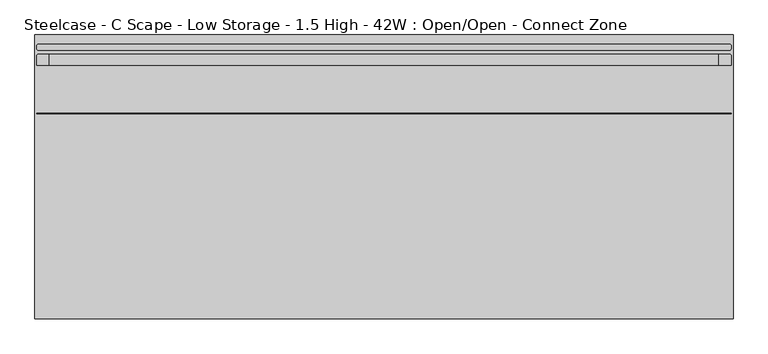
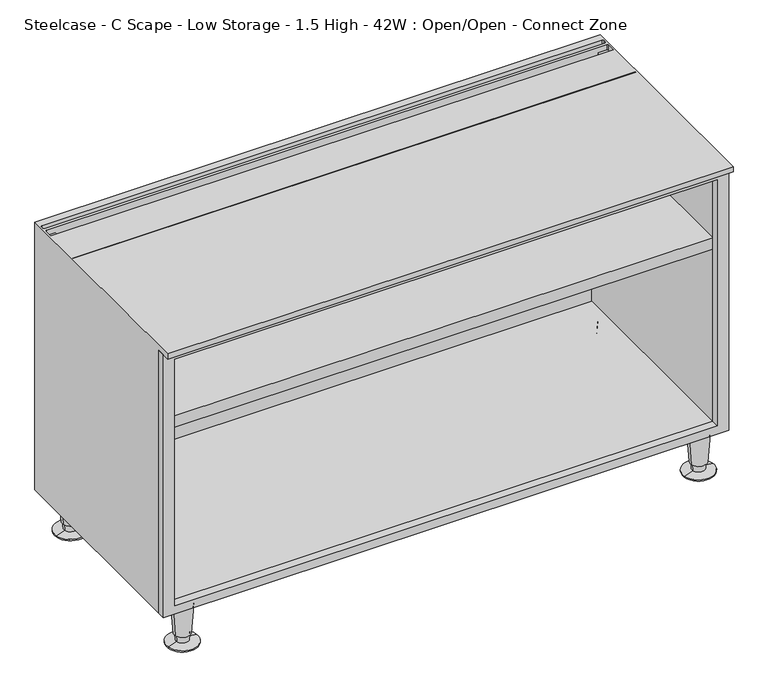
"""IFC4 building model written with IfcOpenShell, lengths in millimetres: furniture geometry, Steelcase - C Scape - Low Storage - 1.5 High - 42W : Open/Open - Connect Zone."""

from ifc_helpers import new_model, si_unit, frame, origin, place, context, project, spatial, polyline, circle_curve, outline, extrude, source, transform, mapped, element, save
from ifc_brep_helpers import plane_surface, cylinder_surface, revolved_surface, advanced_brep


def steelcase_c_scape_low_storage_1_5_high_42w_open_open_connect_68b74ef6(model_context):
    return source(origin(), model_context, "Body", "SolidModel", [
        extrude(outline(polyline([(599.44, 532.2710512), (599.44, 0.0), (76.1999955, 0.0), (76.1999955, 1065.53), (599.44, 1065.53), (599.44, 532.2710512)]), holes=[polyline([(92.7100024, 1043.5617285), (92.7100024, 21.3382324), (582.93, 21.3382324), (582.93, 1043.5617285), (92.7100024, 1043.5617285)])]), frame((0.0, -419.3484735, 0.0), z_axis=(0.0, 1.0, 0.0), x_axis=(0.0, 0.0, 1.0)), (0.0, 0.0, 1.0), 14.9862946),
        advanced_brep(
        [(1038.2598695, -31.5218435, 76.2), (1000.5981305, -37.2840847, 76.2), (1019.429, -34.4029641, 76.2), (1034.3095214, -32.1262463, 19.05), (1004.5484786, -36.6796819, 19.05), (1031.8799345, -32.4979728, 19.05), (1006.9780655, -36.3079555, 19.05), (1031.191165, -32.6033544, 5.7545598), (1007.666835, -36.2025738, 5.7545598), (1048.5400485, -29.9489775, 2.5119506), (990.3179515, -38.8569507, 2.5119506), (1048.5400485, -29.9489775, 0.0), (990.3179515, -38.8569507, 0.0), (1019.429, -34.4029641, 0.0)],
        [
            (0, 1, circle_curve(frame((1019.429, -34.4029641, 76.2), z_axis=(0.0, 0.0, 1.0), x_axis=(0.0, -1.0, 0.0)), 19.05)),
            (1, 2),
            (2, 0),
            (1, 0, circle_curve(frame((1019.429, -34.4029641, 76.2), z_axis=(0.0, 0.0, 1.0), x_axis=(0.0, -1.0, 0.0)), 19.05)),
            (3, 4, circle_curve(frame((1019.429, -34.4029641, 19.05), z_axis=(0.0, 0.0, 1.0), x_axis=(0.0, -1.0, 0.0)), 15.0536827)),
            (4, 1),
            (0, 3),
            (4, 3, circle_curve(frame((1019.429, -34.4029641, 19.05), z_axis=(0.0, 0.0, 1.0), x_axis=(0.0, -1.0, 0.0)), 15.0536827)),
            (5, 6, circle_curve(frame((1019.429, -34.4029641, 19.05), z_axis=(0.0, 0.0, 1.0), x_axis=(0.0, -1.0, 0.0)), 12.5958232)),
            (6, 4),
            (3, 5),
            (6, 5, circle_curve(frame((1019.429, -34.4029641, 19.05), z_axis=(0.0, 0.0, 1.0), x_axis=(0.0, -1.0, 0.0)), 12.5958232)),
            (7, 8, circle_curve(frame((1019.429, -34.4029641, 5.7545598), z_axis=(0.0, 0.0, 1.0), x_axis=(0.0, -1.0, 0.0)), 11.8990387)),
            (8, 6),
            (5, 7),
            (8, 7, circle_curve(frame((1019.429, -34.4029641, 5.7545598), z_axis=(0.0, 0.0, 1.0), x_axis=(0.0, -1.0, 0.0)), 11.8990387)),
            (9, 10, circle_curve(frame((1019.429, -34.4029641, 2.5119506), z_axis=(0.0, 0.0, 1.0), x_axis=(0.0, -1.0, 0.0)), 29.4498071)),
            (10, 8),
            (7, 9),
            (10, 9, circle_curve(frame((1019.429, -34.4029641, 2.5119506), z_axis=(0.0, 0.0, 1.0), x_axis=(0.0, -1.0, 0.0)), 29.4498071)),
            (11, 12, circle_curve(frame((1019.429, -34.4029641, 0.0), z_axis=(0.0, 0.0, 1.0), x_axis=(0.0, -1.0, 0.0)), 29.4498071)),
            (12, 10),
            (9, 11),
            (12, 11, circle_curve(frame((1019.429, -34.4029641, 0.0), z_axis=(0.0, 0.0, 1.0), x_axis=(0.0, -1.0, 0.0)), 29.4498071)),
            (13, 12),
            (11, 13),
        ],
        [
            plane_surface(frame((1019.429, -34.4029641, 76.2), z_axis=(0.0, 0.0, 1.0), x_axis=(0.0, -1.0, 0.0))),
            revolved_surface(polyline([(1019.429, -53.4529641, 76.2), (1019.429, -49.4566468, 19.05)]), (1019.429, -34.4029641, 25.4), (0.0, 0.0, -1.0)),
            plane_surface(frame((1019.429, -34.4029641, 19.05), z_axis=(0.0, 0.0, -1.0), x_axis=(0.0, -1.0, 0.0))),
            revolved_surface(polyline([(1019.429, -46.9987873, 19.05), (1019.429, -46.3020028, 5.7545598)]), (1019.429, -34.4029641, 25.4), (0.0, 0.0, -1.0)),
            revolved_surface(polyline([(1019.429, -46.3020028, 5.7545598), (1019.429, -63.8527712, 2.5119506)]), (1019.429, -34.4029641, 25.4), (0.0, 0.0, -1.0)),
            cylinder_surface(frame((1019.429, -34.4029641, 25.4), z_axis=(0.0, 0.0, -1.0), x_axis=(0.0, -1.0, 0.0)), 29.4498071),
            plane_surface(frame((1019.429, -34.4029641, 0.0), z_axis=(0.0, 0.0, -1.0), x_axis=(0.0, -1.0, 0.0))),
        ],
        [
            (0, [[1, 2, 3]]),
            (0, [[4, -3, -2]]),
            (1, [[5, 6, -1, 7]]),
            (1, [[8, -7, -4, -6]]),
            (2, [[9, 10, -5, 11]]),
            (2, [[12, -11, -8, -10]]),
            (3, [[13, 14, -9, 15]]),
            (3, [[16, -15, -12, -14]]),
            (4, [[17, 18, -13, 19]]),
            (4, [[20, -19, -16, -18]]),
            (5, [[21, 22, -17, 23]]),
            (5, [[24, -23, -20, -22]]),
            (6, [[25, -21, 26]]),
            (6, [[-26, -24, -25]]),
        ],
    ),
        advanced_brep(
        [(1038.2598695, -397.1702762, 76.2), (1000.5981305, -402.9325174, 76.2), (1019.429, -400.0513968, 76.2), (1034.3095214, -397.774679, 19.05), (1004.5484786, -402.3281146, 19.05), (1031.8799345, -398.1464055, 19.05), (1006.9780655, -401.9563882, 19.05), (1031.191165, -398.2517871, 5.7545598), (1007.666835, -401.8510065, 5.7545598), (1048.5400485, -395.5974102, 2.5119506), (990.3179515, -404.5053834, 2.5119506), (1048.5400485, -395.5974102, 0.0), (990.3179515, -404.5053834, 0.0), (1019.429, -400.0513968, 0.0)],
        [
            (0, 1, circle_curve(frame((1019.429, -400.0513968, 76.2), z_axis=(0.0, 0.0, 1.0), x_axis=(0.0, -1.0, 0.0)), 19.05)),
            (1, 2),
            (2, 0),
            (1, 0, circle_curve(frame((1019.429, -400.0513968, 76.2), z_axis=(0.0, 0.0, 1.0), x_axis=(0.0, -1.0, 0.0)), 19.05)),
            (3, 4, circle_curve(frame((1019.429, -400.0513968, 19.05), z_axis=(0.0, 0.0, 1.0), x_axis=(0.0, -1.0, 0.0)), 15.0536827)),
            (4, 1),
            (0, 3),
            (4, 3, circle_curve(frame((1019.429, -400.0513968, 19.05), z_axis=(0.0, 0.0, 1.0), x_axis=(0.0, -1.0, 0.0)), 15.0536827)),
            (5, 6, circle_curve(frame((1019.429, -400.0513968, 19.05), z_axis=(0.0, 0.0, 1.0), x_axis=(0.0, -1.0, 0.0)), 12.5958232)),
            (6, 4),
            (3, 5),
            (6, 5, circle_curve(frame((1019.429, -400.0513968, 19.05), z_axis=(0.0, 0.0, 1.0), x_axis=(0.0, -1.0, 0.0)), 12.5958232)),
            (7, 8, circle_curve(frame((1019.429, -400.0513968, 5.7545598), z_axis=(0.0, 0.0, 1.0), x_axis=(0.0, -1.0, 0.0)), 11.8990387)),
            (8, 6),
            (5, 7),
            (8, 7, circle_curve(frame((1019.429, -400.0513968, 5.7545598), z_axis=(0.0, 0.0, 1.0), x_axis=(0.0, -1.0, 0.0)), 11.8990387)),
            (9, 10, circle_curve(frame((1019.429, -400.0513968, 2.5119506), z_axis=(0.0, 0.0, 1.0), x_axis=(0.0, -1.0, 0.0)), 29.4498071)),
            (10, 8),
            (7, 9),
            (10, 9, circle_curve(frame((1019.429, -400.0513968, 2.5119506), z_axis=(0.0, 0.0, 1.0), x_axis=(0.0, -1.0, 0.0)), 29.4498071)),
            (11, 12, circle_curve(frame((1019.429, -400.0513968, 0.0), z_axis=(0.0, 0.0, 1.0), x_axis=(0.0, -1.0, 0.0)), 29.4498071)),
            (12, 10),
            (9, 11),
            (12, 11, circle_curve(frame((1019.429, -400.0513968, 0.0), z_axis=(0.0, 0.0, 1.0), x_axis=(0.0, -1.0, 0.0)), 29.4498071)),
            (13, 12),
            (11, 13),
        ],
        [
            plane_surface(frame((1019.429, -400.0513968, 76.2), z_axis=(0.0, 0.0, 1.0), x_axis=(0.0, -1.0, 0.0))),
            revolved_surface(polyline([(1019.429, -419.1013968, 76.2), (1019.429, -415.1050795, 19.05)]), (1019.429, -400.0513968, 25.4), (0.0, 0.0, -1.0)),
            plane_surface(frame((1019.429, -400.0513968, 19.05), z_axis=(0.0, 0.0, -1.0), x_axis=(0.0, -1.0, 0.0))),
            revolved_surface(polyline([(1019.429, -412.64722, 19.05), (1019.429, -411.9504355, 5.7545598)]), (1019.429, -400.0513968, 25.4), (0.0, 0.0, -1.0)),
            revolved_surface(polyline([(1019.429, -411.9504355, 5.7545598), (1019.429, -429.5012039, 2.5119506)]), (1019.429, -400.0513968, 25.4), (0.0, 0.0, -1.0)),
            cylinder_surface(frame((1019.429, -400.0513968, 25.4), z_axis=(0.0, 0.0, -1.0), x_axis=(0.0, -1.0, 0.0)), 29.4498071),
            plane_surface(frame((1019.429, -400.0513968, 0.0), z_axis=(0.0, 0.0, -1.0), x_axis=(0.0, -1.0, 0.0))),
        ],
        [
            (0, [[1, 2, 3]]),
            (0, [[4, -3, -2]]),
            (1, [[5, 6, -1, 7]]),
            (1, [[8, -7, -4, -6]]),
            (2, [[9, 10, -5, 11]]),
            (2, [[12, -11, -8, -10]]),
            (3, [[13, 14, -9, 15]]),
            (3, [[16, -15, -12, -14]]),
            (4, [[17, 18, -13, 19]]),
            (4, [[20, -19, -16, -18]]),
            (5, [[21, 22, -17, 23]]),
            (5, [[24, -23, -20, -22]]),
            (6, [[25, -21, 26]]),
            (6, [[-26, -24, -25]]),
        ],
    ),
        advanced_brep(
        [(65.5422821, -397.1702762, 76.2), (27.8805432, -402.9325174, 76.2), (46.7114126, -400.0513968, 76.2), (61.5919341, -397.774679, 19.05), (31.8308912, -402.3281146, 19.05), (59.1623471, -398.1464055, 19.05), (34.2604781, -401.9563882, 19.05), (58.4735776, -398.2517871, 5.7545598), (34.9492476, -401.8510065, 5.7545598), (75.8224611, -395.5974102, 2.5119506), (17.6003641, -404.5053834, 2.5119506), (75.8224611, -395.5974102, 0.0), (17.6003641, -404.5053834, 0.0), (46.7114126, -400.0513968, 0.0)],
        [
            (0, 1, circle_curve(frame((46.7114126, -400.0513968, 76.2), z_axis=(0.0, 0.0, 1.0), x_axis=(0.0, -1.0, 0.0)), 19.05)),
            (1, 2),
            (2, 0),
            (1, 0, circle_curve(frame((46.7114126, -400.0513968, 76.2), z_axis=(0.0, 0.0, 1.0), x_axis=(0.0, -1.0, 0.0)), 19.05)),
            (3, 4, circle_curve(frame((46.7114126, -400.0513968, 19.05), z_axis=(0.0, 0.0, 1.0), x_axis=(0.0, -1.0, 0.0)), 15.0536827)),
            (4, 1),
            (0, 3),
            (4, 3, circle_curve(frame((46.7114126, -400.0513968, 19.05), z_axis=(0.0, 0.0, 1.0), x_axis=(0.0, -1.0, 0.0)), 15.0536827)),
            (5, 6, circle_curve(frame((46.7114126, -400.0513968, 19.05), z_axis=(0.0, 0.0, 1.0), x_axis=(0.0, -1.0, 0.0)), 12.5958232)),
            (6, 4),
            (3, 5),
            (6, 5, circle_curve(frame((46.7114126, -400.0513968, 19.05), z_axis=(0.0, 0.0, 1.0), x_axis=(0.0, -1.0, 0.0)), 12.5958232)),
            (7, 8, circle_curve(frame((46.7114126, -400.0513968, 5.7545598), z_axis=(0.0, 0.0, 1.0), x_axis=(0.0, -1.0, 0.0)), 11.8990387)),
            (8, 6),
            (5, 7),
            (8, 7, circle_curve(frame((46.7114126, -400.0513968, 5.7545598), z_axis=(0.0, 0.0, 1.0), x_axis=(0.0, -1.0, 0.0)), 11.8990387)),
            (9, 10, circle_curve(frame((46.7114126, -400.0513968, 2.5119506), z_axis=(0.0, 0.0, 1.0), x_axis=(0.0, -1.0, 0.0)), 29.4498071)),
            (10, 8),
            (7, 9),
            (10, 9, circle_curve(frame((46.7114126, -400.0513968, 2.5119506), z_axis=(0.0, 0.0, 1.0), x_axis=(0.0, -1.0, 0.0)), 29.4498071)),
            (11, 12, circle_curve(frame((46.7114126, -400.0513968, 0.0), z_axis=(0.0, 0.0, 1.0), x_axis=(0.0, -1.0, 0.0)), 29.4498071)),
            (12, 10),
            (9, 11),
            (12, 11, circle_curve(frame((46.7114126, -400.0513968, 0.0), z_axis=(0.0, 0.0, 1.0), x_axis=(0.0, -1.0, 0.0)), 29.4498071)),
            (13, 12),
            (11, 13),
        ],
        [
            plane_surface(frame((46.7114126, -400.0513968, 76.2), z_axis=(0.0, 0.0, 1.0), x_axis=(0.0, -1.0, 0.0))),
            revolved_surface(polyline([(46.7114126, -419.1013968, 76.2), (46.7114126, -415.1050795, 19.05)]), (46.7114126, -400.0513968, 25.4), (0.0, 0.0, -1.0)),
            plane_surface(frame((46.7114126, -400.0513968, 19.05), z_axis=(0.0, 0.0, -1.0), x_axis=(0.0, -1.0, 0.0))),
            revolved_surface(polyline([(46.7114126, -412.64722, 19.05), (46.7114126, -411.9504355, 5.7545598)]), (46.7114126, -400.0513968, 25.4), (0.0, 0.0, -1.0)),
            revolved_surface(polyline([(46.7114126, -411.9504355, 5.7545598), (46.7114126, -429.5012039, 2.5119506)]), (46.7114126, -400.0513968, 25.4), (0.0, 0.0, -1.0)),
            cylinder_surface(frame((46.7114126, -400.0513968, 25.4), z_axis=(0.0, 0.0, -1.0), x_axis=(0.0, -1.0, 0.0)), 29.4498071),
            plane_surface(frame((46.7114126, -400.0513968, 0.0), z_axis=(0.0, 0.0, -1.0), x_axis=(0.0, -1.0, 0.0))),
        ],
        [
            (0, [[1, 2, 3]]),
            (0, [[4, -3, -2]]),
            (1, [[5, 6, -1, 7]]),
            (1, [[8, -7, -4, -6]]),
            (2, [[9, 10, -5, 11]]),
            (2, [[12, -11, -8, -10]]),
            (3, [[13, 14, -9, 15]]),
            (3, [[16, -15, -12, -14]]),
            (4, [[17, 18, -13, 19]]),
            (4, [[20, -19, -16, -18]]),
            (5, [[21, 22, -17, 23]]),
            (5, [[24, -23, -20, -22]]),
            (6, [[25, -21, 26]]),
            (6, [[-26, -24, -25]]),
        ],
    ),
        advanced_brep(
        [(65.5422821, -31.5218435, 76.2), (27.8805432, -37.2840847, 76.2), (46.7114126, -34.4029641, 76.2), (61.5919341, -32.1262463, 19.05), (31.8308912, -36.6796819, 19.05), (59.1623471, -32.4979728, 19.05), (34.2604781, -36.3079555, 19.05), (58.4735776, -32.6033544, 5.7545598), (34.9492476, -36.2025738, 5.7545598), (75.8224611, -29.9489775, 2.5119506), (17.6003641, -38.8569507, 2.5119506), (75.8224611, -29.9489775, 0.0), (17.6003641, -38.8569507, 0.0), (46.7114126, -34.4029641, 0.0)],
        [
            (0, 1, circle_curve(frame((46.7114126, -34.4029641, 76.2), z_axis=(0.0, 0.0, 1.0), x_axis=(0.0, -1.0, 0.0)), 19.05)),
            (1, 2),
            (2, 0),
            (1, 0, circle_curve(frame((46.7114126, -34.4029641, 76.2), z_axis=(0.0, 0.0, 1.0), x_axis=(0.0, -1.0, 0.0)), 19.05)),
            (3, 4, circle_curve(frame((46.7114126, -34.4029641, 19.05), z_axis=(0.0, 0.0, 1.0), x_axis=(0.0, -1.0, 0.0)), 15.0536827)),
            (4, 1),
            (0, 3),
            (4, 3, circle_curve(frame((46.7114126, -34.4029641, 19.05), z_axis=(0.0, 0.0, 1.0), x_axis=(0.0, -1.0, 0.0)), 15.0536827)),
            (5, 6, circle_curve(frame((46.7114126, -34.4029641, 19.05), z_axis=(0.0, 0.0, 1.0), x_axis=(0.0, -1.0, 0.0)), 12.5958232)),
            (6, 4),
            (3, 5),
            (6, 5, circle_curve(frame((46.7114126, -34.4029641, 19.05), z_axis=(0.0, 0.0, 1.0), x_axis=(0.0, -1.0, 0.0)), 12.5958232)),
            (7, 8, circle_curve(frame((46.7114126, -34.4029641, 5.7545598), z_axis=(0.0, 0.0, 1.0), x_axis=(0.0, -1.0, 0.0)), 11.8990387)),
            (8, 6),
            (5, 7),
            (8, 7, circle_curve(frame((46.7114126, -34.4029641, 5.7545598), z_axis=(0.0, 0.0, 1.0), x_axis=(0.0, -1.0, 0.0)), 11.8990387)),
            (9, 10, circle_curve(frame((46.7114126, -34.4029641, 2.5119506), z_axis=(0.0, 0.0, 1.0), x_axis=(0.0, -1.0, 0.0)), 29.4498071)),
            (10, 8),
            (7, 9),
            (10, 9, circle_curve(frame((46.7114126, -34.4029641, 2.5119506), z_axis=(0.0, 0.0, 1.0), x_axis=(0.0, -1.0, 0.0)), 29.4498071)),
            (11, 12, circle_curve(frame((46.7114126, -34.4029641, 0.0), z_axis=(0.0, 0.0, 1.0), x_axis=(0.0, -1.0, 0.0)), 29.4498071)),
            (12, 10),
            (9, 11),
            (12, 11, circle_curve(frame((46.7114126, -34.4029641, 0.0), z_axis=(0.0, 0.0, 1.0), x_axis=(0.0, -1.0, 0.0)), 29.4498071)),
            (13, 12),
            (11, 13),
        ],
        [
            plane_surface(frame((46.7114126, -34.4029641, 76.2), z_axis=(0.0, 0.0, 1.0), x_axis=(0.0, -1.0, 0.0))),
            revolved_surface(polyline([(46.7114126, -53.4529641, 76.2), (46.7114126, -49.4566468, 19.05)]), (46.7114126, -34.4029641, 25.4), (0.0, 0.0, -1.0)),
            plane_surface(frame((46.7114126, -34.4029641, 19.05), z_axis=(0.0, 0.0, -1.0), x_axis=(0.0, -1.0, 0.0))),
            revolved_surface(polyline([(46.7114126, -46.9987873, 19.05), (46.7114126, -46.3020028, 5.7545598)]), (46.7114126, -34.4029641, 25.4), (0.0, 0.0, -1.0)),
            revolved_surface(polyline([(46.7114126, -46.3020028, 5.7545598), (46.7114126, -63.8527712, 2.5119506)]), (46.7114126, -34.4029641, 25.4), (0.0, 0.0, -1.0)),
            cylinder_surface(frame((46.7114126, -34.4029641, 25.4), z_axis=(0.0, 0.0, -1.0), x_axis=(0.0, -1.0, 0.0)), 29.4498071),
            plane_surface(frame((46.7114126, -34.4029641, 0.0), z_axis=(0.0, 0.0, -1.0), x_axis=(0.0, -1.0, 0.0))),
        ],
        [
            (0, [[1, 2, 3]]),
            (0, [[4, -3, -2]]),
            (1, [[5, 6, -1, 7]]),
            (1, [[8, -7, -4, -6]]),
            (2, [[9, 10, -5, 11]]),
            (2, [[12, -11, -8, -10]]),
            (3, [[13, 14, -9, 15]]),
            (3, [[16, -15, -12, -14]]),
            (4, [[17, 18, -13, 19]]),
            (4, [[20, -19, -16, -18]]),
            (5, [[21, 22, -17, 23]]),
            (5, [[24, -23, -20, -22]]),
            (6, [[25, -21, 26]]),
            (6, [[-26, -24, -25]]),
        ],
    ),
        advanced_brep(
        [(1062.7272317, -120.6444193, 609.6), (1062.7272317, -119.3775195, 609.6), (1062.7272317, -119.3775195, 599.44), (1062.7272317, -120.6444193, 599.44), (1062.7272317, -46.4703418, 609.6), (1062.7272317, -32.274699, 609.6), (1062.7272317, -32.274699, 599.44), (1062.7272317, -46.4703418, 599.44), (1062.7272317, -20.3138654, 609.6), (1062.7272317, -17.0388453, 609.6), (1062.7272317, -17.0388453, 599.44), (1062.7272317, -20.3138654, 599.44), (1065.53, 0.0055807, 609.6), (1065.53, -433.07, 609.6), (1065.53, -433.07, 599.44), (1065.53, -404.362179, 599.44), (1065.53, -404.362179, 76.2), (1065.53, 0.0055807, 76.2), (0.0, -433.07, 609.6), (-0.012551, 0.0055807, 609.6), (1060.0308823, -29.5783496, 609.6), (2.7826272, -46.4703418, 609.6), (2.7826272, -32.0458511, 609.6), (5.2501287, -29.5783496, 609.6), (1059.7507358, -23.2903613, 609.6), (5.5670648, -23.2903613, 609.6), (2.7826272, -20.5059237, 609.6), (2.7826272, -17.0388453, 609.6), (5.4794022, -14.3420703, 609.6), (1060.0304567, -14.3420703, 609.6), (2.7826272, -119.3775195, 609.6), (2.7826272, -120.6444193, 609.6), (0.0, 0.0055807, 76.2), (648.0775189, 0.0055807, 466.2677968), (416.8174811, 0.0055807, 466.2677968), (416.8174811, 0.0055807, 432.6382043), (532.4475, 0.0055807, 432.6382043), (648.0775189, 0.0055807, 432.6382043), (648.0775189, -9.5194193, 466.2677968), (416.8174811, -9.5194193, 466.2677968), (648.0775189, -9.5194193, 435.8005068), (416.8174811, -9.5194193, 435.8005068), (5.2501287, -29.5783496, 599.44), (21.3382324, -29.5783496, 599.44), (21.3382324, -29.5783496, 458.7875121), (1043.5617285, -29.5783496, 458.7875121), (1043.5617285, -29.5783496, 599.44), (1060.0308823, -29.5783496, 599.44), (1043.5617285, -119.3775195, 599.44), (21.3382324, -119.3775195, 599.44), (21.3382324, -46.4703418, 599.44), (1043.5617285, -46.4703418, 599.44), (1059.7507358, -23.2903613, 599.44), (5.5670648, -23.2903613, 599.44), (2.7826272, -20.5059237, 599.44), (2.7826272, -32.0458511, 599.44), (2.7826272, -46.4703418, 599.44), (2.7826272, -119.3775195, 599.44), (5.4794022, -14.3420703, 599.44), (1060.0304567, -14.3420703, 599.44), (2.7826272, -17.0388453, 599.44), (21.3382324, -120.6444193, 599.44), (2.7826272, -120.6444193, 599.44), (1043.5617285, -120.6444193, 599.44), (21.3382324, -404.362179, 92.7100024), (1043.5617285, -404.362179, 92.7100024), (1043.5617285, -9.5194193, 92.7100024), (21.3382324, -9.5194193, 92.7100024), (0.0, -404.362179, 76.2), (21.3382324, -404.362179, 458.7875121), (21.3382324, -404.362179, 599.44), (0.0, -404.362179, 599.44), (1043.5617285, -404.362179, 599.44), (1043.5617285, -404.362179, 458.7875121), (21.3382324, -404.362179, 435.8005068), (1043.5617285, -404.362179, 435.8005068), (0.0, -433.07, 599.44), (21.3382324, -126.9863574, 599.44), (1043.5617285, -126.9863574, 599.44), (21.3382324, -126.9863574, 458.7875121), (1043.5617285, -126.9863574, 458.7875121), (1043.5617285, -120.6444193, 458.7875121), (21.3382324, -120.6444193, 458.7875121), (21.3382324, -9.5194193, 435.8005068), (1043.5617285, -9.5194193, 435.8005068), (648.0775189, -9.5194193, 432.6382043), (532.4475, -9.5194193, 432.6382043), (416.8174811, -9.5194193, 432.6382043)],
        [
            (0, 1),
            (1, 2),
            (2, 3),
            (3, 0),
            (4, 5),
            (5, 6),
            (6, 7),
            (7, 4),
            (8, 9),
            (9, 10),
            (10, 11),
            (11, 8),
            (12, 13),
            (13, 14),
            (14, 15),
            (15, 16),
            (16, 17),
            (17, 12),
            (18, 13),
            (12, 19),
            (19, 18),
            (20, 5, circle_curve(frame((1060.0308823, -32.274699, 609.6), z_axis=(0.0, 0.0, -1.0), x_axis=(1.0, 0.0, 0.0)), 2.6963494)),
            (4, 21),
            (21, 22),
            (22, 23, circle_curve(frame((5.2501287, -32.0458511, 609.6), z_axis=(0.0, 0.0, -1.0), x_axis=(1.0, 0.0, 0.0)), 2.4675015)),
            (23, 20),
            (8, 24, circle_curve(frame((1059.7507358, -20.3138654, 609.6), z_axis=(0.0, 0.0, -1.0), x_axis=(1.0, 0.0, 0.0)), 2.9764959)),
            (24, 25),
            (25, 26, circle_curve(frame((5.5670648, -20.5059237, 609.6), z_axis=(0.0, 0.0, -1.0), x_axis=(1.0, 0.0, 0.0)), 2.7844376)),
            (26, 27),
            (27, 28, circle_curve(frame((5.4794022, -17.0388453, 609.6), z_axis=(0.0, 0.0, -1.0), x_axis=(1.0, 0.0, 0.0)), 2.696775)),
            (28, 29),
            (29, 9, circle_curve(frame((1060.0304567, -17.0388453, 609.6), z_axis=(0.0, 0.0, -1.0), x_axis=(1.0, 0.0, 0.0)), 2.696775)),
            (30, 1),
            (0, 31),
            (31, 30),
            (17, 32),
            (32, 19),
            (33, 34),
            (34, 35),
            (35, 36),
            (36, 37),
            (37, 33),
            (33, 38),
            (38, 39),
            (39, 34),
            (38, 40),
            (40, 41),
            (41, 39),
            (23, 42),
            (42, 43),
            (43, 44),
            (44, 45),
            (45, 46),
            (46, 47),
            (47, 20),
            (48, 49),
            (49, 50),
            (50, 51),
            (51, 48),
            (47, 6, circle_curve(frame((1060.0308823, -32.274699, 599.44), z_axis=(0.0, 0.0, -1.0), x_axis=(1.0, 0.0, 0.0)), 2.6963494)),
            (11, 52, circle_curve(frame((1059.7507358, -20.3138654, 599.44), z_axis=(0.0, 0.0, -1.0), x_axis=(1.0, 0.0, 0.0)), 2.9764959)),
            (52, 24),
            (52, 53),
            (53, 25),
            (53, 54, circle_curve(frame((5.5670648, -20.5059237, 599.44), z_axis=(0.0, 0.0, -1.0), x_axis=(1.0, 0.0, 0.0)), 2.7844376)),
            (54, 26),
            (22, 55),
            (55, 42, circle_curve(frame((5.2501287, -32.0458511, 599.44), z_axis=(0.0, 0.0, -1.0), x_axis=(1.0, 0.0, 0.0)), 2.4675015)),
            (7, 51),
            (50, 56),
            (56, 21),
            (30, 57),
            (57, 49),
            (48, 2),
            (28, 58),
            (58, 59),
            (59, 29),
            (59, 10, circle_curve(frame((1060.0304567, -17.0388453, 599.44), z_axis=(0.0, 0.0, -1.0), x_axis=(1.0, 0.0, 0.0)), 2.696775)),
            (27, 60),
            (60, 58, circle_curve(frame((5.4794022, -17.0388453, 599.44), z_axis=(0.0, 0.0, -1.0), x_axis=(1.0, 0.0, 0.0)), 2.696775)),
            (61, 49),
            (57, 62),
            (62, 61),
            (48, 63),
            (63, 3),
            (60, 54),
            (50, 43),
            (55, 56),
            (46, 51),
            (64, 65),
            (65, 66),
            (66, 67),
            (67, 64),
            (16, 68),
            (68, 32),
            (69, 70),
            (70, 71),
            (71, 68),
            (15, 72),
            (72, 73),
            (73, 69),
            (64, 74),
            (74, 75),
            (75, 65),
            (18, 76),
            (76, 14),
            (76, 71),
            (70, 77),
            (77, 78),
            (78, 72),
            (77, 79),
            (79, 80),
            (80, 78),
            (63, 81),
            (81, 82),
            (82, 61),
            (62, 31),
            (44, 82),
            (81, 45),
            (79, 69),
            (73, 80),
            (74, 83),
            (83, 41),
            (40, 84),
            (84, 75),
            (67, 83),
            (84, 66),
            (85, 86),
            (86, 87),
            (87, 41),
            (40, 85),
            (37, 85),
            (36, 86),
            (35, 87),
        ],
        [
            plane_surface(frame((1062.7272317, -120.6444193, 609.6), z_axis=(-1.0, 0.0, 0.0), x_axis=(0.0, 0.0, 1.0))),
            plane_surface(frame((1065.53, -120.6444193, 609.6), z_axis=(1.0, 0.0, 0.0), x_axis=(0.0, 0.0, -1.0))),
            plane_surface(frame((1062.7272317, -120.6444193, 609.6), z_axis=(0.0, 0.0, 1.0), x_axis=(1.0, 0.0, 0.0))),
            plane_surface(frame((1062.7272317, 0.0055807, 609.6), z_axis=(0.0, 1.0, 0.0), x_axis=(1.0, 0.0, 0.0))),
            plane_surface(frame((1062.7272317, 0.0055807, 466.2677968), z_axis=(0.0, 0.0, -1.0), x_axis=(1.0, 0.0, 0.0))),
            plane_surface(frame((1062.7272317, -9.5194193, 466.2677968), z_axis=(0.0, 1.0, 0.0), x_axis=(1.0, 0.0, 0.0))),
            plane_surface(frame((1062.7272317, -29.5783496, 458.7875121), z_axis=(0.0, -1.0, 0.0), x_axis=(1.0, 0.0, 0.0))),
            plane_surface(frame((1062.7272317, -29.5783496, 599.44), z_axis=(0.0, 0.0, -1.0), x_axis=(1.0, 0.0, 0.0))),
            revolved_surface(polyline([(1062.7272317, -32.274699, 599.44), (1062.7272317, -32.274699, 609.6)]), (1060.0308823, -32.274699, 599.44), (0.0, 0.0, -1.0)),
            revolved_surface(polyline([(1062.7272317, -20.3138654, 599.44), (1062.7272317, -20.3138654, 609.6)]), (1059.7507358, -20.3138654, 599.44), (0.0, 0.0, -1.0)),
            plane_surface(frame((1059.7507358, -23.2903613, 609.6), z_axis=(0.0, 1.0, 0.0), x_axis=(0.0, 0.0, -1.0))),
            revolved_surface(polyline([(8.3515024, -20.5059237, 599.44), (8.3515024, -20.5059237, 609.6)]), (5.5670648, -20.5059237, 599.44), (0.0, 0.0, -1.0)),
            revolved_surface(polyline([(7.7176302, -32.0458511, 599.44), (7.7176302, -32.0458511, 609.6)]), (5.2501287, -32.0458511, 599.44), (0.0, 0.0, -1.0)),
            plane_surface(frame((1062.7272317, -46.4703418, 609.6), z_axis=(0.0, 1.0, 0.0), x_axis=(0.0, 0.0, -1.0))),
            plane_surface(frame((2.7826272, -119.3775195, 609.6), z_axis=(0.0, -1.0, 0.0), x_axis=(0.0, 0.0, -1.0))),
            plane_surface(frame((5.4794022, -14.3420703, 609.6), z_axis=(0.0, -1.0, 0.0), x_axis=(0.0, 0.0, -1.0))),
            revolved_surface(polyline([(1062.7272317, -17.0388453, 599.44), (1062.7272317, -17.0388453, 609.6)]), (1060.0304567, -17.0388453, 41.6295811), (0.0, 0.0, -1.0)),
            revolved_surface(polyline([(8.1761772, -17.0388453, 599.44), (8.1761772, -17.0388453, 609.6)]), (5.4794022, -17.0388453, 41.6295811), (0.0, 0.0, -1.0)),
            plane_surface(frame((1062.7272317, 0.0055807, 599.44), z_axis=(0.0, 0.0, 1.0), x_axis=(-1.0, 0.0, 0.0))),
            plane_surface(frame((0.0, 0.0, 92.7100024), z_axis=(0.0, 0.0, 1.0), x_axis=(-1.0, 0.0, 0.0))),
            plane_surface(frame((0.0, 0.0, 76.2), z_axis=(0.0, 0.0, -1.0), x_axis=(1.0, 0.0, 0.0))),
            plane_surface(frame((21.3382324, -404.362179, 92.7100024), z_axis=(0.0, -1.0, 0.0), x_axis=(0.0, 0.0, -1.0))),
            plane_surface(frame((1065.53, -433.07, 609.6), z_axis=(0.0, -1.0, 0.0), x_axis=(-1.0, 0.0, 0.0))),
            plane_surface(frame((1065.53, -433.07, 599.44), z_axis=(0.0, 0.0, -1.0), x_axis=(-1.0, 0.0, 0.0))),
            plane_surface(frame((1065.53, -126.9863574, 599.44), z_axis=(0.0, -1.0, 0.0), x_axis=(-1.0, 0.0, 0.0))),
            plane_surface(frame((1065.53, -120.6444193, 457.1999955), z_axis=(0.0, 1.0, 0.0), x_axis=(-1.0, 0.0, 0.0))),
            plane_surface(frame((0.0, -9.5194193, 458.7875121), z_axis=(0.0, 0.0, 1.0), x_axis=(-1.0, 0.0, 0.0))),
            plane_surface(frame((0.0, -9.5194193, 435.8005068), z_axis=(0.0, 0.0, -1.0), x_axis=(1.0, 0.0, 0.0))),
            plane_surface(frame((21.3382324, -404.362179, 599.44), z_axis=(1.0, 0.0, 0.0), x_axis=(0.0, 0.0, -1.0))),
            plane_surface(frame((1043.5617285, -9.5194193, 599.44), z_axis=(-1.0, 0.0, 0.0), x_axis=(0.0, 0.0, -1.0))),
            plane_surface(frame((2.7826272, -120.6444193, 599.44), z_axis=(1.0, 0.0, 0.0), x_axis=(0.0, 1.0, 0.0))),
            plane_surface(frame((648.0775189, -9.5194193, 459.9177968), z_axis=(0.0, -1.0, 0.0), x_axis=(0.0, 0.0, -1.0))),
            plane_surface(frame((648.0775189, -9.5194193, 466.2677968), z_axis=(-1.0, 0.0, 0.0), x_axis=(0.0, 1.0, 0.0))),
            plane_surface(frame((648.0775189, -9.5194193, 432.6382043), z_axis=(0.0, 0.0, 1.0), x_axis=(0.0, 1.0, 0.0))),
            plane_surface(frame((532.4475, -9.5194193, 432.6382043), z_axis=(0.0, 0.0, 1.0), x_axis=(0.0, 1.0, 0.0))),
            plane_surface(frame((416.8174811, -9.5194193, 432.6382043), z_axis=(1.0, 0.0, 0.0), x_axis=(0.0, 1.0, 0.0))),
            plane_surface(frame((0.0, -433.07, 609.6), z_axis=(-1.0, 0.0, 0.0), x_axis=(0.0, 1.0, 0.0))),
        ],
        [
            (0, [[1, 2, 3, 4]]),
            (0, [[5, 6, 7, 8]]),
            (0, [[9, 10, 11, 12]]),
            (1, [[13, 14, 15, 16, 17, 18]]),
            (2, [[19, -13, 20, 21], [22, -5, 23, 24, 25, 26], [27, 28, 29, 30, 31, 32, 33, -9], [34, -1, 35, 36]]),
            (3, [[-18, 37, 38, -20], [39, 40, 41, 42, 43]]),
            (4, [[-39, 44, 45, 46]]),
            (5, [[-45, 47, 48, 49]]),
            (6, [[-26, 50, 51, 52, 53, 54, 55, 56]]),
            (7, [[57, 58, 59, 60]]),
            (8, [[-22, -56, 61, -6]]),
            (9, [[-27, -12, 62, 63]]),
            (10, [[-28, -63, 64, 65]]),
            (11, [[-29, -65, 66, 67]]),
            (12, [[-25, 68, 69, -50]]),
            (13, [[-23, -8, 70, -59, 71, 72]]),
            (14, [[-34, 73, 74, -57, 75, -2]]),
            (15, [[-32, 76, 77, 78]]),
            (16, [[-33, -78, 79, -10]]),
            (17, [[-31, 80, 81, -76]]),
            (18, [[82, -74, 83, 84]]),
            (18, [[85, 86, -3, -75]]),
            (18, [[-11, -79, -77, -81, 87, -66, -64, -62]]),
            (18, [[88, -51, -69, 89, -71]]),
            (18, [[90, -70, -7, -61, -55]]),
            (19, [[91, 92, 93, 94]]),
            (20, [[-37, -17, 95, 96]]),
            (21, [[97, 98, 99, -95, -16, 100, 101, 102], [-91, 103, 104, 105]]),
            (22, [[-14, -19, 106, 107]]),
            (23, [[-107, 108, -98, 109, 110, 111, -100, -15]]),
            (24, [[-110, 112, 113, 114]]),
            (25, [[-4, -86, 115, 116, 117, -84, 118, -35]]),
            (26, [[-53, 119, -116, 120]]),
            (26, [[-113, 121, -102, 122]]),
            (27, [[-104, 123, 124, -48, 125, 126]]),
            (28, [[-103, -94, 127, -123]]),
            (28, [[-97, -121, -112, -109]]),
            (28, [[-88, -58, -82, -117, -119, -52]]),
            (29, [[-105, -126, 128, -92]]),
            (29, [[-101, -111, -114, -122]]),
            (29, [[-90, -54, -120, -115, -85, -60]]),
            (30, [[-24, -72, -89, -68]]),
            (30, [[-30, -67, -87, -80]]),
            (30, [[-36, -118, -83, -73]]),
            (31, [[129, 130, 131, -124, -127, -93, -128, -125, 132]]),
            (32, [[-43, 133, -132, -47, -44]]),
            (33, [[-129, -133, -42, 134]]),
            (34, [[-130, -134, -41, 135]]),
            (35, [[-40, -46, -49, -131, -135]]),
            (36, [[-106, -21, -38, -96, -99, -108]]),
        ],
    ),
    ])


if __name__ == "__main__":
    model = new_model("IFC4")
    model_context = context("Model", 3, world=origin())
    ifc_project = project(units=[si_unit("LENGTHUNIT", "METRE", prefix="MILLI")], contexts=[model_context])
    site = spatial("IfcSite", under=ifc_project)
    building = spatial("IfcBuilding", under=site)
    placement = place(None, origin())
    steelcase_c_scape_low_storage_1_5_high_42w_open_open_connect_shape = steelcase_c_scape_low_storage_1_5_high_42w_open_open_connect_68b74ef6(model_context)
    element("IfcFurniture", 1, ObjectType="Steelcase - C Scape - Low Storage - 1.5 High - 42W : Open/Open - Connect Zone", at=placement, inside=building, context=model_context, shape_type="MappedRepresentation", body=[
        mapped(steelcase_c_scape_low_storage_1_5_high_42w_open_open_connect_shape, transform((0.0, 0.0, 0.0), x_axis=(1.0, 0.0, 0.0), y_axis=(0.0, 1.0, 0.0), z_axis=(0.0, 0.0, 1.0))),
    ])
    save(model, "model.ifc")
